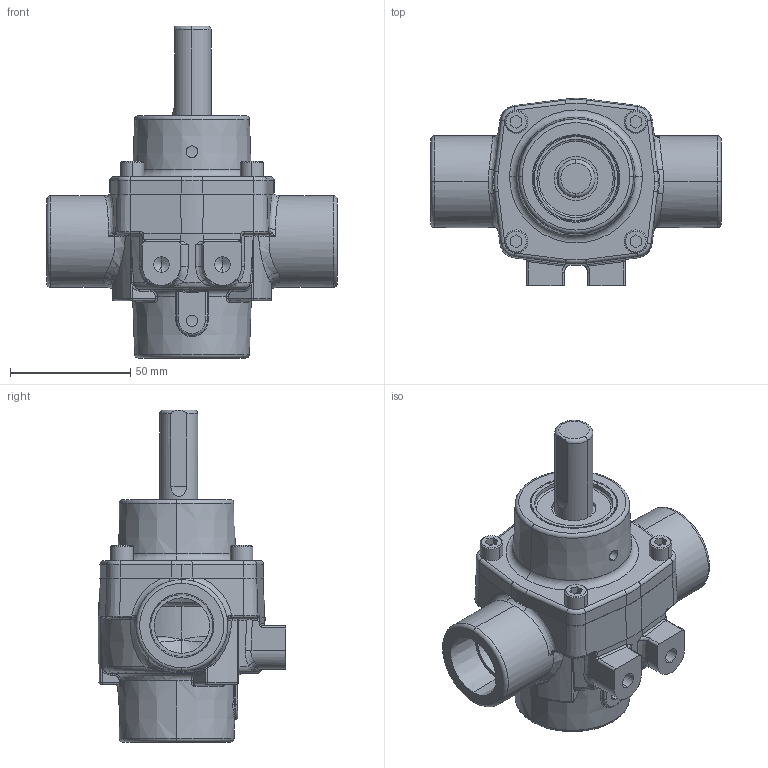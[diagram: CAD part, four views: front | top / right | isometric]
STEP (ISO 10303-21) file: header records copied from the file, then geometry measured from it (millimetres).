
FILE_DESCRIPTION (( 'STEP AP203' ), '1' );
FILE_NAME ('4101C-R.STEP', '2014-04-03T18:34:58', ( '' ), ( '' ), 'SwSTEP 2.0', 'SolidWorks 2012', '' );
FILE_SCHEMA (( 'CONFIG_CONTROL_DESIGN' ));
Products named in the file (1): 4101C-R
Bounding box: 120.65 x 77.86 x 138.02 mm (x, y, z)
Volume: 327545.3 mm3; surface area: 48481 mm2
Topology: 1 solids, 8 shells, 787 faces, 1958 edges, 1186 vertices
Faces by surface type: cylinder 283, bspline 185, plane 144, torus 103, cone 57, sphere 15
Entity records: 49447 total; most frequent: CARTESIAN_POINT 32567, ORIENTED_EDGE 3858, DIRECTION 3074, EDGE_CURVE 1929, AXIS2_PLACEMENT_3D 1276, VERTEX_POINT 1184, EDGE_LOOP 823, FACE_OUTER_BOUND 787
